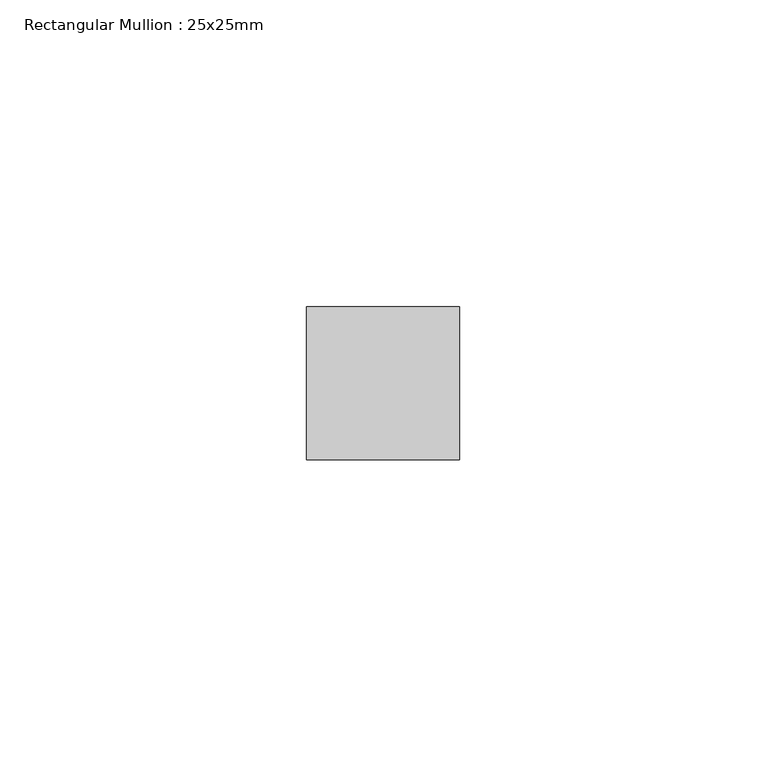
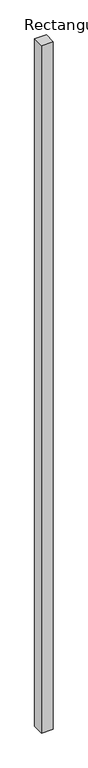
"""IFC4 building model written with IfcOpenShell, lengths in millimetres: member geometry, Rectangular Mullion : 25x25mm."""

from ifc_helpers import new_model, si_unit, frame, origin, place, context, project, spatial, polyline, outline, extrude, source, transform, mapped, element, save


def rectangular_mullion_25x25mm_fa774699(model_context):
    return source(origin(), model_context, "Body", "SweptSolid", [
        extrude(outline(polyline([(12.5, 24.5), (12.5, -0.5), (-12.5, -0.5), (-12.5, 24.5), (12.5, 24.5)])), frame((0.0, 0.0, -1546.4285714), z_axis=(0.0, 0.0, 1.0), x_axis=(1.0, 0.0, 0.0)), (0.0, 0.0, 1.0), 1546.4285714),
    ])


if __name__ == "__main__":
    model = new_model("IFC4")
    model_context = context("Model", 3, world=origin())
    ifc_project = project(units=[si_unit("LENGTHUNIT", "METRE", prefix="MILLI")], contexts=[model_context])
    site = spatial("IfcSite", under=ifc_project)
    building = spatial("IfcBuilding", under=site)
    placement = place(None, origin())
    rectangular_mullion_25x25mm_shape = rectangular_mullion_25x25mm_fa774699(model_context)
    element("IfcMember", 1, ObjectType="Rectangular Mullion : 25x25mm", at=placement, inside=building, context=model_context, shape_type="MappedRepresentation", body=[
        mapped(rectangular_mullion_25x25mm_shape, transform((0.0, 0.0, 0.0), x_axis=(1.0, 0.0, 0.0), y_axis=(0.0, 1.0, 0.0), z_axis=(0.0, 0.0, 1.0))),
    ])
    save(model, "model.ifc")
